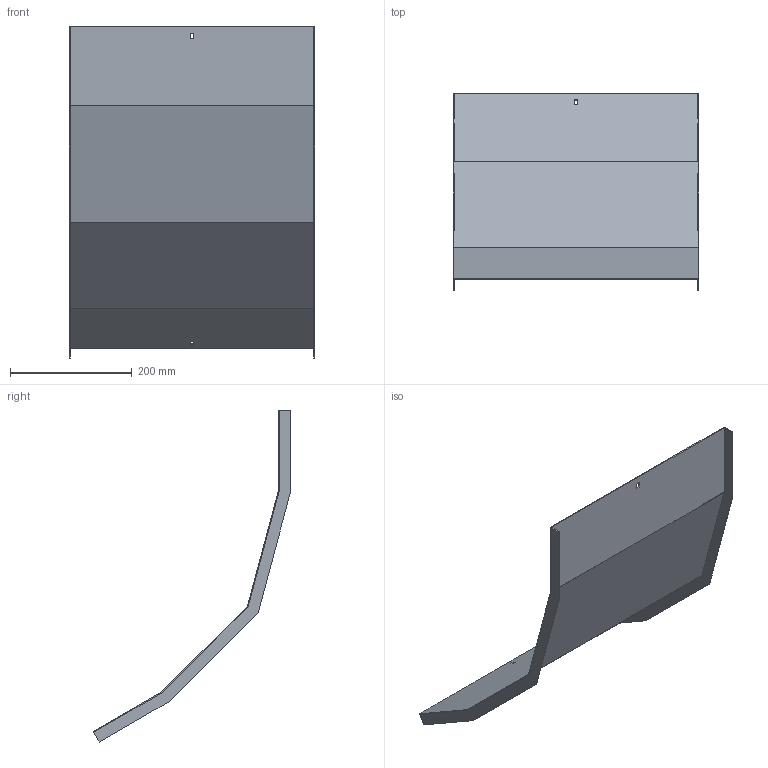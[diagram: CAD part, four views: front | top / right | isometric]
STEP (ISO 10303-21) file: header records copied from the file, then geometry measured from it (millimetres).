
FILE_DESCRIPTION (( 'STEP AP214' ), '1' );
FILE_NAME ('40N5R400_H150.step', '2025-02-21T14:29:08', ( '' ), ( '' ), 'SwSTEP 2.0', 'SolidWorks 2023', '' );
FILE_SCHEMA (( 'AUTOMOTIVE_DESIGN' ));
Length unit declared in the file: millimetre
Products named in the file (1): 40N5R400_H150
Bounding box: 403 x 324.8 x 545.25 mm (x, y, z)
Volume: 435220.1 mm3; surface area: 583741.9 mm2
Topology: 1 solids, 1 shells, 30 faces, 84 edges, 56 vertices
Faces by surface type: plane 30
Entity records: 979 total; most frequent: CARTESIAN_POINT 171, ORIENTED_EDGE 168, DIRECTION 146, VECTOR 84, EDGE_CURVE 84, LINE 84, VERTEX_POINT 56, EDGE_LOOP 34
